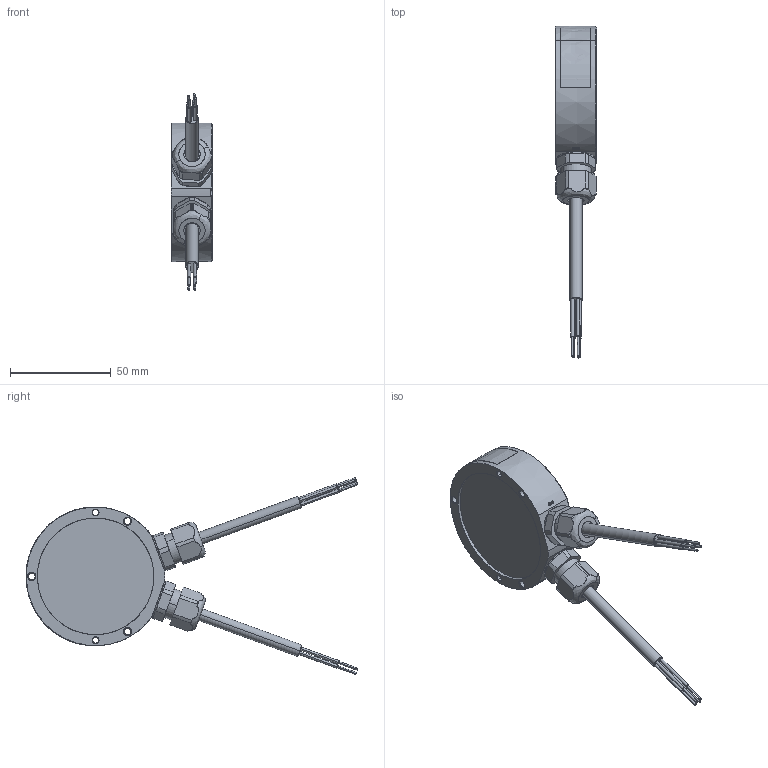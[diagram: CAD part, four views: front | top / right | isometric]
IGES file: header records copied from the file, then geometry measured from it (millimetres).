
Start section: SolidWorks IGES file using analytic representation for surfaces
Global section: file name: I:\Zeichnungen_EK-VM\PR\Zur Bearbeitung Rotativ\RFX\RFX-6901-_ _ _-_ _ _-35_.igs; native system: SolidWorks 2014; preprocessor: SolidWorks 2014; author: Thiel; date: 151123.101459; units: millimetre
Bounding box: 20.4 x 164.64 x 97.67 mm (x, y, z)
Surface area: 22411.4 mm2 (no closed solid volume)
Topology: 0 solids, 0 shells, 267 faces, 5354 edges, 5354 vertices
Faces by surface type: revolution 165, bspline 102
